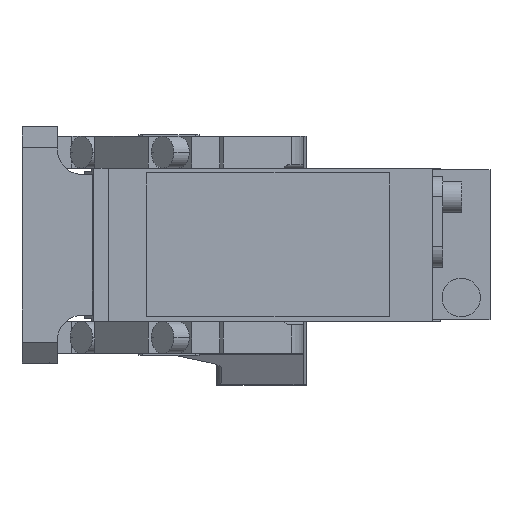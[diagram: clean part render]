
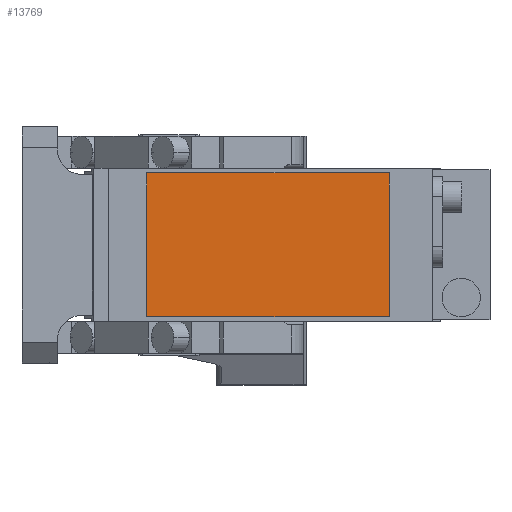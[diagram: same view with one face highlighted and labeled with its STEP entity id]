
A CAD part, front view. The second image highlights one B-rep face of the part: STEP entity #13769.
In plain terms, the highlighted planar face has unit normal (0, -1, 0).
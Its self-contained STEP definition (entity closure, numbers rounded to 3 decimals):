
#1175 = EDGE_CURVE ( 'NONE', #10925, #12619, #3219, .T. ) ;
#1199 = VECTOR ( 'NONE', #10051, 1000. ) ;
#2052 = DIRECTION ( 'NONE',  ( 0., 0., 1. ) ) ;
#3043 = DIRECTION ( 'NONE',  ( 0., -1., 0. ) ) ;
#3197 = LINE ( 'NONE', #12526, #6801 ) ;
#3219 = LINE ( 'NONE', #11417, #5969 ) ;
#3466 = VECTOR ( 'NONE', #8914, 1000. ) ;
#4191 = EDGE_CURVE ( 'NONE', #10615, #4236, #12421, .T. ) ;
#4236 = VERTEX_POINT ( 'NONE', #13571 ) ;
#5279 = DIRECTION ( 'NONE',  ( 0., 0., -1. ) ) ;
#5407 = ORIENTED_EDGE ( 'NONE', *, *, #9167, .T. ) ;
#5433 = PLANE ( 'NONE',  #6935 ) ;
#5969 = VECTOR ( 'NONE', #13710, 1000. ) ;
#6801 = VECTOR ( 'NONE', #2052, 1000. ) ;
#6935 = AXIS2_PLACEMENT_3D ( 'NONE', #7774, #3043, #5279 ) ;
#7774 = CARTESIAN_POINT ( 'NONE',  ( 0., -280.5, 0. ) ) ;
#7938 = CARTESIAN_POINT ( 'NONE',  ( -7., -280.5, -22.5 ) ) ;
#8226 = ORIENTED_EDGE ( 'NONE', *, *, #4191, .T. ) ;
#8914 = DIRECTION ( 'NONE',  ( -1., 0., 0. ) ) ;
#9142 = LINE ( 'NONE', #10364, #1199 ) ;
#9167 = EDGE_CURVE ( 'NONE', #4236, #10925, #9142, .T. ) ;
#10051 = DIRECTION ( 'NONE',  ( 0., 0., -1. ) ) ;
#10074 = FACE_OUTER_BOUND ( 'NONE', #10244, .T. ) ;
#10244 = EDGE_LOOP ( 'NONE', ( #5407, #13609, #11818, #8226 ) ) ;
#10364 = CARTESIAN_POINT ( 'NONE',  ( -7., -280.5, 22.5 ) ) ;
#10615 = VERTEX_POINT ( 'NONE', #14389 ) ;
#10925 = VERTEX_POINT ( 'NONE', #7938 ) ;
#11417 = CARTESIAN_POINT ( 'NONE',  ( -7., -280.5, -22.5 ) ) ;
#11818 = ORIENTED_EDGE ( 'NONE', *, *, #12734, .T. ) ;
#12192 = CARTESIAN_POINT ( 'NONE',  ( -7., -280.5, 22.5 ) ) ;
#12255 = CARTESIAN_POINT ( 'NONE',  ( 69., -280.5, -22.5 ) ) ;
#12421 = LINE ( 'NONE', #12192, #3466 ) ;
#12526 = CARTESIAN_POINT ( 'NONE',  ( 69., -280.5, 22.5 ) ) ;
#12619 = VERTEX_POINT ( 'NONE', #12255 ) ;
#12734 = EDGE_CURVE ( 'NONE', #12619, #10615, #3197, .T. ) ;
#13571 = CARTESIAN_POINT ( 'NONE',  ( -7., -280.5, 22.5 ) ) ;
#13609 = ORIENTED_EDGE ( 'NONE', *, *, #1175, .T. ) ;
#13710 = DIRECTION ( 'NONE',  ( 1., 0., 0. ) ) ;
#13769 = ADVANCED_FACE ( 'NONE', ( #10074 ), #5433, .T. ) ;
#14389 = CARTESIAN_POINT ( 'NONE',  ( 69., -280.5, 22.5 ) ) ;
